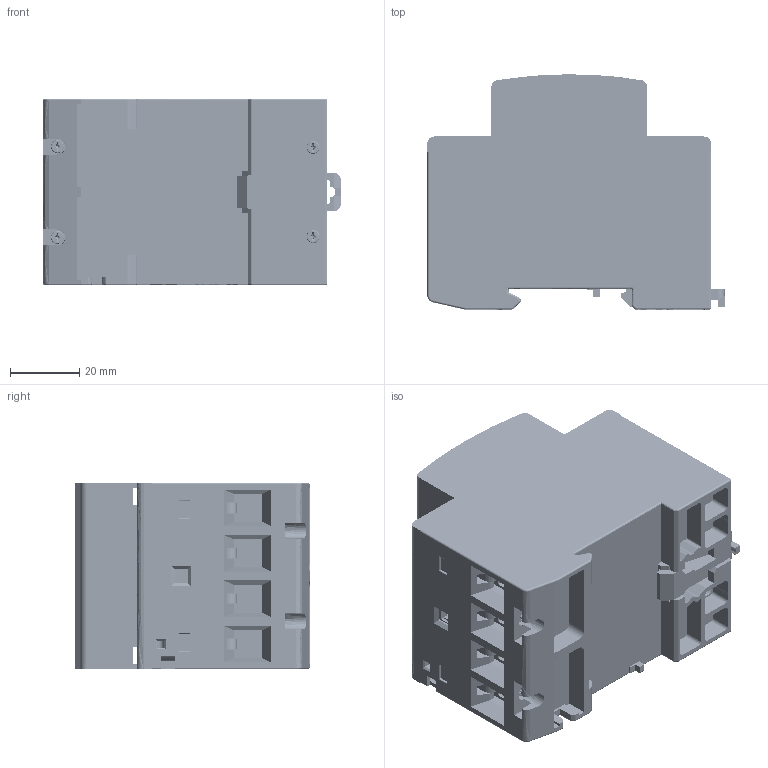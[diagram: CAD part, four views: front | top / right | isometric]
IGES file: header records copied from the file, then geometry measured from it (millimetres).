
Start section: SolidWorks IGES file using analytic representation for surfaces
Global section: file name: C:\Users\Administrator\Desktop\2\AUC1\AUC6\AUC6 发外协\AUC6-63-3模.IGS; native system: SolidWorks 2023; preprocessor: SolidWorks 2023; author: 技术部-03,,1; organization: 1; date: 240625.110026; units: millimetre
Bounding box: 85.93 x 68 x 54 mm (x, y, z)
Surface area: 94244.8 mm2 (no closed solid volume)
Topology: 0 solids, 0 shells, 4938 faces, 58935 edges, 58909 vertices
Faces by surface type: bspline 3155, revolution 1783
